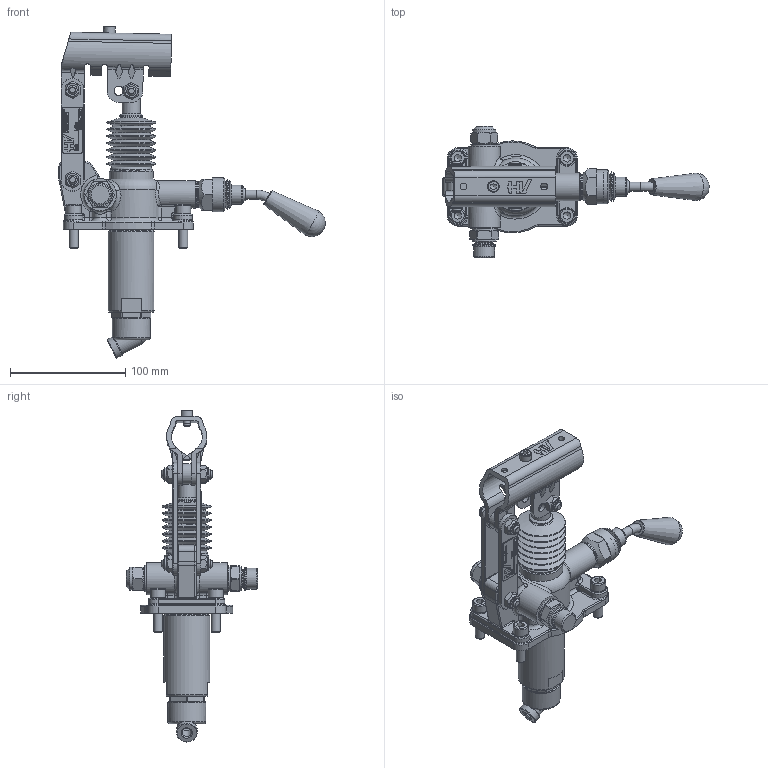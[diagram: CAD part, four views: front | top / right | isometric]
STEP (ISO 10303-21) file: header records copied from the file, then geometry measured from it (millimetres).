
FILE_DESCRIPTION((''),'2;1');
FILE_NAME('G:\HV_HYDRAULIC\AZIENDA_HV_HYDRAULIC\ARCHIVIO_DISEGNI\5_PRODOTTI_FINITI\1_POMPE_MANUALI\6052_PM_45\6052.0121_PM_45_byB-m-s_(HV)\6052.0121.stp','2024-02-28T14:16:09',('christian.scardovi'),(''),'Autodesk Inventor 2013','Autodesk Inventor 2013','');
FILE_SCHEMA(('AUTOMOTIVE_DESIGN { 1 0 10303 214 1 1 1 1 }'));
Length unit declared in the file: millimetre
Products named in the file (1): 6052.0121
Bounding box: 231.43 x 114 x 288.31 mm (x, y, z)
Volume: 442040.3 mm3; surface area: 137831.3 mm2
Topology: 3 solids, 3 shells, 1504 faces, 3746 edges, 2356 vertices
Faces by surface type: plane 716, cylinder 308, bspline 191, cone 165, torus 107, sphere 17
Full cylindrical faces by diameter (mm): 3 x2, 5 x6, 5.5 x1, 6 x4, 6.5 x2, 8 x16, 9 x3, 9.2 x1, 10 x5, 10.376 x1, 11.05 x6, 12 x5, 13 x4, 13.2 x1, 13.468 x1, 14 x4, 14.95 x3, 15 x3, 15.5 x1, 16 x4, 16.468 x1, 16.6 x3, 17 x1, 18 x4, 19.7 x1, 20 x5, 21 x2, 21.6 x1, 22 x3, 23 x3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
Entity records: 46612 total; most frequent: CARTESIAN_POINT 12168, ORIENTED_EDGE 6754, DIRECTION 6315, EDGE_CURVE 3377, VERTEX_POINT 2271, AXIS2_PLACEMENT_3D 2257, EDGE_LOOP 1927, VECTOR 1801
